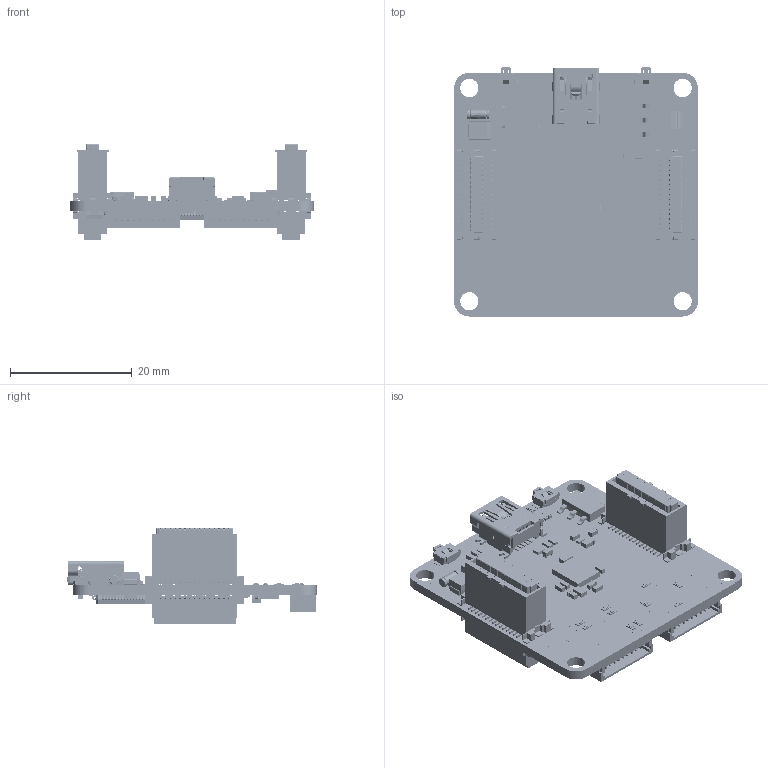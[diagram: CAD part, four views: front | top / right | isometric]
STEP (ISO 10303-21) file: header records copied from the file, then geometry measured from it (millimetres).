
FILE_DESCRIPTION(('FreeCAD Model'),'2;1');
FILE_NAME('/home/test/tf/steffen/FreeCad/Boards/imu_cp.step', '2019-05-15T10:04:56',('kicad StepUp'),('ksu MCAD'), 'Open CASCADE STEP processor 7.3','FreeCAD','Unknown');
FILE_SCHEMA(('AUTOMOTIVE_DESIGN { 1 0 10303 214 1 1 1 1 }'));
Products named in the file (1): imu_cp
Bounding box: 40 x 40.88 x 15.7 mm (x, y, z)
Volume: 4985.4 mm3; surface area: 9838.5 mm2
Topology: 155 solids, 166 shells, 14040 faces, 40247 edges, 26774 vertices
Faces by surface type: plane 10502, cylinder 2510, bspline 927, sphere 52, extrusion 31, torus 18
Full cylindrical faces by diameter (mm): 0.05 x56, 0.11 x1, 0.35 x3, 0.4 x1, 0.5 x1, 0.6 x8, 0.76 x2, 0.8 x8, 0.899 x2, 1.6 x1, 3 x4, 3.2 x4, 4.9 x3, 5.5 x1, 10.4 x1
Entity records: 567224 total; most frequent: CARTESIAN_POINT 105083, ORIENTED_EDGE 79194, DIRECTION 69588, EDGE_CURVE 39605, VECTOR 32902, LINE 32871, VERTEX_POINT 25666, AXIS2_PLACEMENT_3D 18343
